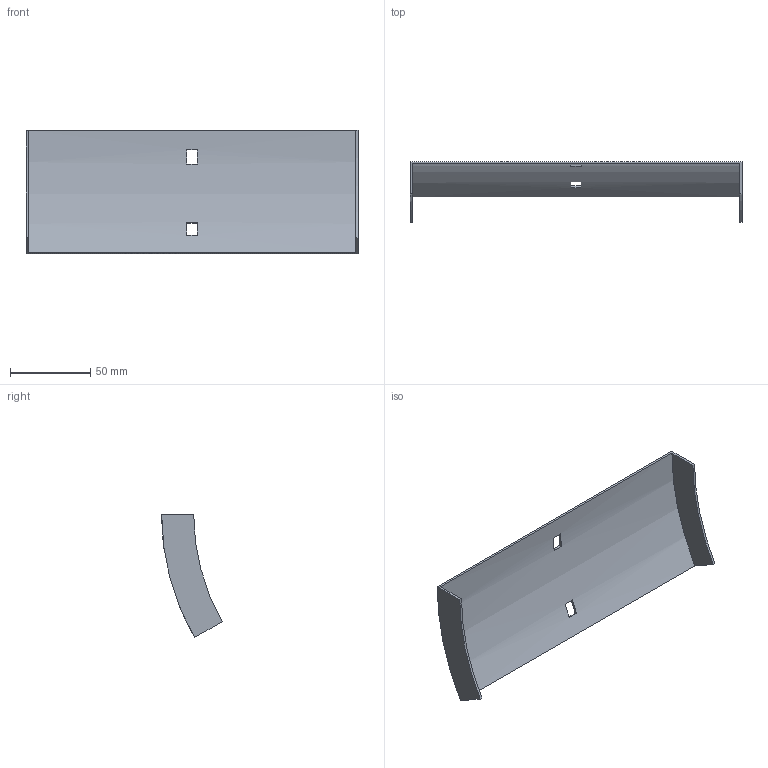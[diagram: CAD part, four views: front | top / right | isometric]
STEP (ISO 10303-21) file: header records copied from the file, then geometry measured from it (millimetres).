
FILE_DESCRIPTION (( 'STEP AP214' ), '1' );
FILE_NAME ('35N1B200.step', '2025-02-21T09:11:58', ( '' ), ( '' ), 'SwSTEP 2.0', 'SolidWorks 2023', '' );
FILE_SCHEMA (( 'AUTOMOTIVE_DESIGN' ));
Length unit declared in the file: millimetre
Products named in the file (1): 35N1B200
Bounding box: 207 x 37.89 x 76.75 mm (x, y, z)
Volume: 28805.4 mm3; surface area: 39443.7 mm2
Topology: 1 solids, 1 shells, 18 faces, 48 edges, 32 vertices
Faces by surface type: plane 14, cylinder 4
Entity records: 599 total; most frequent: DIRECTION 102, CARTESIAN_POINT 99, ORIENTED_EDGE 96, EDGE_CURVE 48, AXIS2_PLACEMENT_3D 35, VERTEX_POINT 32, LINE 32, VECTOR 32
